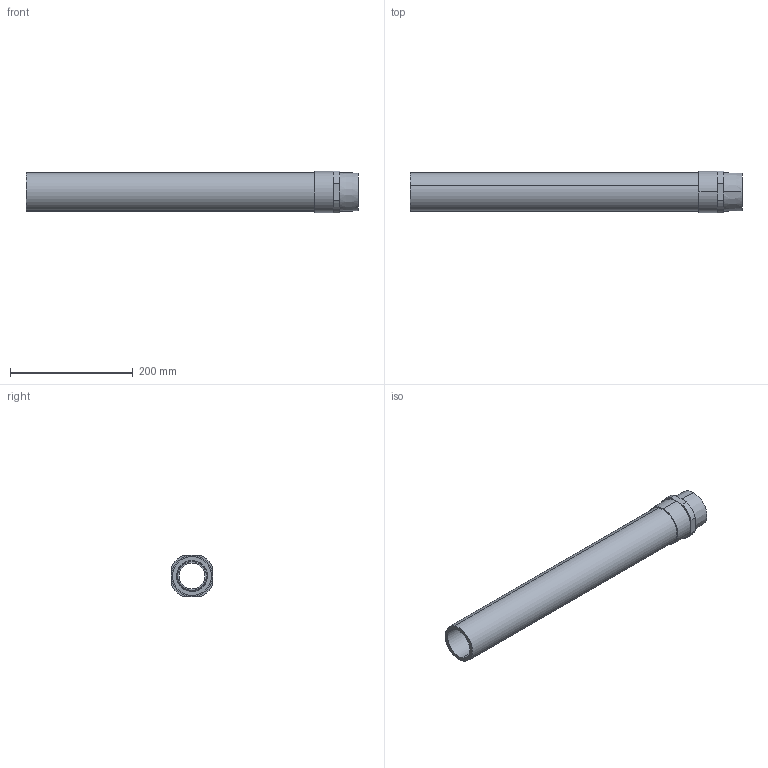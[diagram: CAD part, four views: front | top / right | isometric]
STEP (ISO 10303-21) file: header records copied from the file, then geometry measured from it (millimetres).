
FILE_DESCRIPTION (( 'STEP AP214' ), '1' );
FILE_NAME ('KP_C17-63ML.step', '2012-09-03T10:40:45', ( 'robinj' ), ( 'Microsoft' ), 'SwSTEP 2.0', 'SolidWorks 2012', '' );
FILE_SCHEMA (( 'AUTOMOTIVE_DESIGN' ));
Length unit declared in the file: millimetre
Products named in the file (1): KP_C17-63ML
Bounding box: 540 x 68 x 68 mm (x, y, z)
Volume: 634440.3 mm3; surface area: 221565.6 mm2
Topology: 3 solids, 3 shells, 52 faces, 110 edges, 68 vertices
Faces by surface type: cylinder 22, plane 14, cone 10, torus 6
Entity records: 2048 total; most frequent: DIRECTION 282, CARTESIAN_POINT 231, ORIENTED_EDGE 220, AXIS2_PLACEMENT_3D 119, EDGE_CURVE 110, VERTEX_POINT 68, CIRCLE 66, EDGE_LOOP 62
